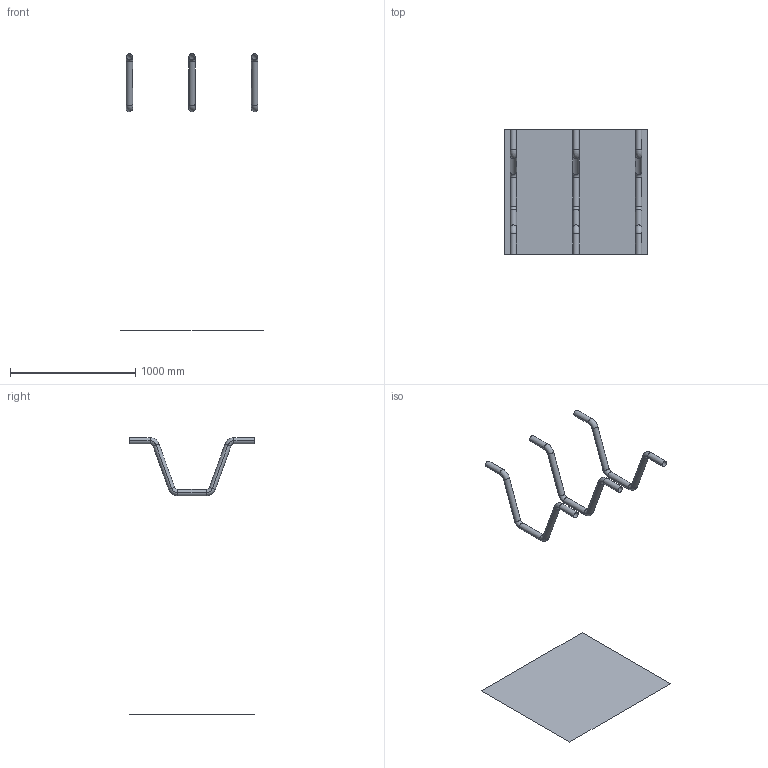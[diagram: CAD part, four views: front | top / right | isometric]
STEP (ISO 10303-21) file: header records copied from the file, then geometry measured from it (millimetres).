
FILE_DESCRIPTION(('CATIA V5 STEP Exchange'),'2;1');
FILE_NAME('C:\_Andres\UNIVERSIDAD\IQS\ASIGNATURAS\DAO\EXF\EXF-16172c\2inicio\Homs_Menis_Ej08_v14.stp','2017-03-05T21:54:52+00:00',('none'),('none'),'CATIA Version 5-6 Release 2014 SP1 HF18','CATIA V5 STEP AP203','none');
FILE_SCHEMA(('CONFIG_CONTROL_DESIGN'));
Length unit declared in the file: millimetre
Products named in the file (1): Homs_Menis_Ej08_v14
Bounding box: 1140 x 1000 x 2211 mm (x, y, z)
Surface area: 1867966.2 mm2 (no closed solid volume)
Topology: 0 solids, 4 shells, 55 faces, 118 edges, 64 vertices
Faces by surface type: cylinder 30, torus 24, plane 1
Entity records: 1283 total; most frequent: ORIENTED_EDGE 220, CARTESIAN_POINT 208, DIRECTION 168, EDGE_CURVE 118, AXIS2_PLACEMENT_3D 110, CIRCLE 84, VERTEX_POINT 64, ADVANCED_FACE 55
